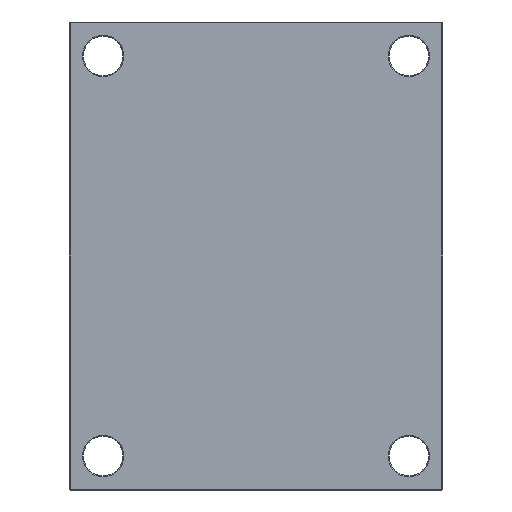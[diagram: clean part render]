
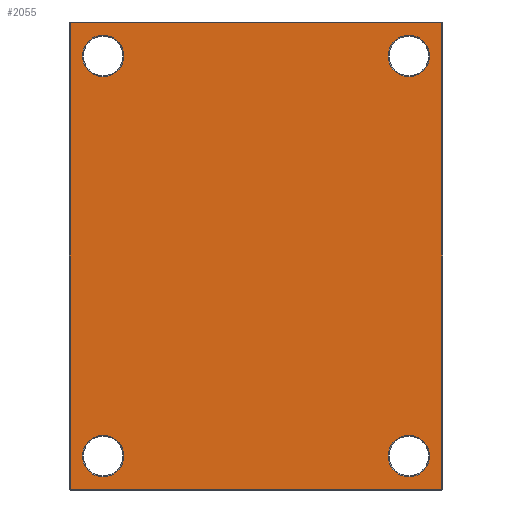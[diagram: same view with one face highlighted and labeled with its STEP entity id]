
A CAD part, front view. The second image highlights one B-rep face of the part: STEP entity #2055.
In plain terms, the highlighted planar face has unit normal (0, -1, 0).
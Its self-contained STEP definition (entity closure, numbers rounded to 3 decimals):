
#31 = EDGE_LOOP ( 'NONE', ( #1470, #1166 ) ) ;
#75 = EDGE_LOOP ( 'NONE', ( #1168, #1277 ) ) ;
#84 = DIRECTION ( 'NONE',  ( 0., 1., 0. ) ) ;
#117 = DIRECTION ( 'NONE',  ( 0., 1., 0. ) ) ;
#127 = CARTESIAN_POINT ( 'NONE',  ( 162., 0., 212. ) ) ;
#132 = EDGE_CURVE ( 'NONE', #201, #988, #2037, .T. ) ;
#152 = VECTOR ( 'NONE', #740, 1000. ) ;
#178 = CARTESIAN_POINT ( 'NONE',  ( 197., 0., -247. ) ) ;
#201 = VERTEX_POINT ( 'NONE', #1519 ) ;
#221 = CARTESIAN_POINT ( 'NONE',  ( -162., 0., 190. ) ) ;
#251 = DIRECTION ( 'NONE',  ( 0., 1., 0. ) ) ;
#254 = EDGE_LOOP ( 'NONE', ( #382, #1140 ) ) ;
#263 = CARTESIAN_POINT ( 'NONE',  ( 162., 0., -212. ) ) ;
#269 = VERTEX_POINT ( 'NONE', #1633 ) ;
#280 = CIRCLE ( 'NONE', #1498, 22. ) ;
#300 = DIRECTION ( 'NONE',  ( 0., 0., 1. ) ) ;
#340 = CARTESIAN_POINT ( 'NONE',  ( 0., 0., -247. ) ) ;
#365 = VECTOR ( 'NONE', #987, 1000. ) ;
#369 = VERTEX_POINT ( 'NONE', #520 ) ;
#382 = ORIENTED_EDGE ( 'NONE', *, *, #1794, .T. ) ;
#408 = CARTESIAN_POINT ( 'NONE',  ( -162., 0., -190. ) ) ;
#418 = LINE ( 'NONE', #1356, #152 ) ;
#434 = CARTESIAN_POINT ( 'NONE',  ( 162., 0., -234. ) ) ;
#446 = DIRECTION ( 'NONE',  ( 0., 0., 1. ) ) ;
#455 = EDGE_CURVE ( 'NONE', #369, #1055, #418, .T. ) ;
#461 = CARTESIAN_POINT ( 'NONE',  ( 162., 0., -212. ) ) ;
#465 = EDGE_CURVE ( 'NONE', #1055, #541, #2162, .T. ) ;
#481 = VERTEX_POINT ( 'NONE', #1030 ) ;
#490 = CIRCLE ( 'NONE', #1599, 22. ) ;
#507 = CARTESIAN_POINT ( 'NONE',  ( -162., 0., 234. ) ) ;
#520 = CARTESIAN_POINT ( 'NONE',  ( -197., 0., 247. ) ) ;
#541 = VERTEX_POINT ( 'NONE', #178 ) ;
#555 = DIRECTION ( 'NONE',  ( 0., 0., 1. ) ) ;
#575 = PLANE ( 'NONE',  #742 ) ;
#610 = EDGE_CURVE ( 'NONE', #541, #1399, #1270, .T. ) ;
#615 = CARTESIAN_POINT ( 'NONE',  ( 197., 0., 247. ) ) ;
#665 = CARTESIAN_POINT ( 'NONE',  ( 0., 0., 0. ) ) ;
#686 = DIRECTION ( 'NONE',  ( 0., 0., 1. ) ) ;
#694 = DIRECTION ( 'NONE',  ( 0., 1., 0. ) ) ;
#695 = DIRECTION ( 'NONE',  ( 0., 1., 0. ) ) ;
#715 = DIRECTION ( 'NONE',  ( 0., 0., 1. ) ) ;
#717 = CIRCLE ( 'NONE', #1676, 22. ) ;
#740 = DIRECTION ( 'NONE',  ( 0., 0., -1. ) ) ;
#742 = AXIS2_PLACEMENT_3D ( 'NONE', #665, #695, #715 ) ;
#764 = CARTESIAN_POINT ( 'NONE',  ( -162., 0., -212. ) ) ;
#773 = DIRECTION ( 'NONE',  ( 0., 1., 0. ) ) ;
#779 = DIRECTION ( 'NONE',  ( 0., 0., 1. ) ) ;
#786 = CARTESIAN_POINT ( 'NONE',  ( 162., 0., 212. ) ) ;
#813 = ORIENTED_EDGE ( 'NONE', *, *, #1236, .T. ) ;
#868 = ORIENTED_EDGE ( 'NONE', *, *, #465, .T. ) ;
#874 = ORIENTED_EDGE ( 'NONE', *, *, #1848, .T. ) ;
#903 = DIRECTION ( 'NONE',  ( 0., 1., 0. ) ) ;
#961 = VERTEX_POINT ( 'NONE', #221 ) ;
#963 = VERTEX_POINT ( 'NONE', #408 ) ;
#987 = DIRECTION ( 'NONE',  ( 1., 0., 0. ) ) ;
#988 = VERTEX_POINT ( 'NONE', #434 ) ;
#993 = CARTESIAN_POINT ( 'NONE',  ( -162., 0., -212. ) ) ;
#1017 = DIRECTION ( 'NONE',  ( 0., 0., 1. ) ) ;
#1030 = CARTESIAN_POINT ( 'NONE',  ( 162., 0., 190. ) ) ;
#1055 = VERTEX_POINT ( 'NONE', #1305 ) ;
#1107 = CARTESIAN_POINT ( 'NONE',  ( 162., 0., 234. ) ) ;
#1140 = ORIENTED_EDGE ( 'NONE', *, *, #1860, .T. ) ;
#1157 = VECTOR ( 'NONE', #555, 1000. ) ;
#1166 = ORIENTED_EDGE ( 'NONE', *, *, #1873, .T. ) ;
#1168 = ORIENTED_EDGE ( 'NONE', *, *, #1724, .T. ) ;
#1182 = ORIENTED_EDGE ( 'NONE', *, *, #455, .T. ) ;
#1187 = AXIS2_PLACEMENT_3D ( 'NONE', #127, #117, #300 ) ;
#1198 = FACE_OUTER_BOUND ( 'NONE', #1286, .T. ) ;
#1201 = FACE_BOUND ( 'NONE', #1625, .T. ) ;
#1203 = FACE_BOUND ( 'NONE', #254, .T. ) ;
#1217 = ORIENTED_EDGE ( 'NONE', *, *, #610, .T. ) ;
#1236 = EDGE_CURVE ( 'NONE', #963, #269, #1895, .T. ) ;
#1257 = FACE_BOUND ( 'NONE', #31, .T. ) ;
#1268 = AXIS2_PLACEMENT_3D ( 'NONE', #1838, #1833, #1686 ) ;
#1270 = LINE ( 'NONE', #1435, #1157 ) ;
#1277 = ORIENTED_EDGE ( 'NONE', *, *, #132, .T. ) ;
#1280 = VERTEX_POINT ( 'NONE', #1107 ) ;
#1286 = EDGE_LOOP ( 'NONE', ( #1217, #874, #1182, #868 ) ) ;
#1305 = CARTESIAN_POINT ( 'NONE',  ( -197., 0., -247. ) ) ;
#1325 = CARTESIAN_POINT ( 'NONE',  ( 0., 0., 247. ) ) ;
#1356 = CARTESIAN_POINT ( 'NONE',  ( -197., 0., 0. ) ) ;
#1357 = FACE_BOUND ( 'NONE', #75, .T. ) ;
#1399 = VERTEX_POINT ( 'NONE', #615 ) ;
#1433 = AXIS2_PLACEMENT_3D ( 'NONE', #1637, #84, #1961 ) ;
#1435 = CARTESIAN_POINT ( 'NONE',  ( 197., 0., 0. ) ) ;
#1470 = ORIENTED_EDGE ( 'NONE', *, *, #1758, .T. ) ;
#1498 = AXIS2_PLACEMENT_3D ( 'NONE', #786, #694, #686 ) ;
#1505 = DIRECTION ( 'NONE',  ( -1., 0., 0. ) ) ;
#1519 = CARTESIAN_POINT ( 'NONE',  ( 162., 0., -190. ) ) ;
#1599 = AXIS2_PLACEMENT_3D ( 'NONE', #461, #2143, #1999 ) ;
#1625 = EDGE_LOOP ( 'NONE', ( #1813, #813 ) ) ;
#1633 = CARTESIAN_POINT ( 'NONE',  ( -162., 0., -234. ) ) ;
#1637 = CARTESIAN_POINT ( 'NONE',  ( -162., 0., 212. ) ) ;
#1674 = CIRCLE ( 'NONE', #1268, 22. ) ;
#1676 = AXIS2_PLACEMENT_3D ( 'NONE', #993, #903, #1017 ) ;
#1679 = EDGE_CURVE ( 'NONE', #269, #963, #717, .T. ) ;
#1686 = DIRECTION ( 'NONE',  ( 0., 0., 1. ) ) ;
#1695 = CIRCLE ( 'NONE', #1187, 22. ) ;
#1724 = EDGE_CURVE ( 'NONE', #988, #201, #490, .T. ) ;
#1758 = EDGE_CURVE ( 'NONE', #481, #1280, #280, .T. ) ;
#1794 = EDGE_CURVE ( 'NONE', #961, #2050, #2182, .T. ) ;
#1813 = ORIENTED_EDGE ( 'NONE', *, *, #1679, .T. ) ;
#1824 = AXIS2_PLACEMENT_3D ( 'NONE', #764, #773, #779 ) ;
#1833 = DIRECTION ( 'NONE',  ( 0., 1., 0. ) ) ;
#1838 = CARTESIAN_POINT ( 'NONE',  ( -162., 0., 212. ) ) ;
#1848 = EDGE_CURVE ( 'NONE', #1399, #369, #1954, .T. ) ;
#1860 = EDGE_CURVE ( 'NONE', #2050, #961, #1674, .T. ) ;
#1873 = EDGE_CURVE ( 'NONE', #1280, #481, #1695, .T. ) ;
#1895 = CIRCLE ( 'NONE', #1824, 22. ) ;
#1928 = VECTOR ( 'NONE', #1505, 1000. ) ;
#1943 = AXIS2_PLACEMENT_3D ( 'NONE', #263, #251, #446 ) ;
#1954 = LINE ( 'NONE', #1325, #1928 ) ;
#1961 = DIRECTION ( 'NONE',  ( 0., 0., 1. ) ) ;
#1999 = DIRECTION ( 'NONE',  ( 0., 0., 1. ) ) ;
#2037 = CIRCLE ( 'NONE', #1943, 22. ) ;
#2050 = VERTEX_POINT ( 'NONE', #507 ) ;
#2055 = ADVANCED_FACE ( 'NONE', ( #1201, #1357, #1257, #1203, #1198 ), #575, .F. ) ;
#2143 = DIRECTION ( 'NONE',  ( 0., 1., 0. ) ) ;
#2162 = LINE ( 'NONE', #340, #365 ) ;
#2182 = CIRCLE ( 'NONE', #1433, 22. ) ;
